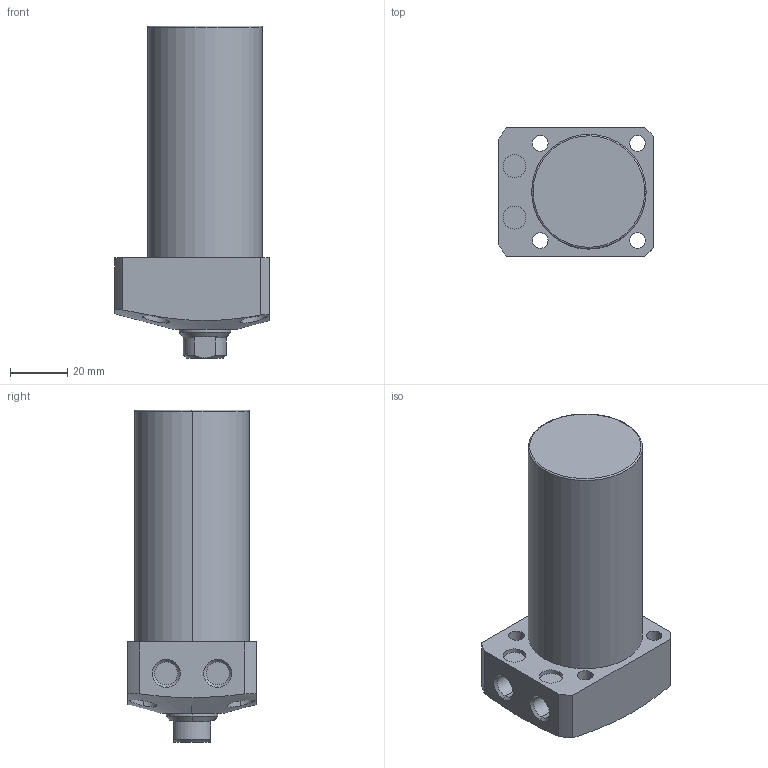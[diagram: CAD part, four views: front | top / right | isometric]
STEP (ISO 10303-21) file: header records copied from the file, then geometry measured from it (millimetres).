
FILE_DESCRIPTION (( 'STEP AP203' ), '1' );
FILE_NAME ('CLL-040CA-055.STEP', '2019-12-21T03:35:42', ( '' ), ( '' ), 'SwSTEP 2.0', 'SolidWorks 2015', '' );
FILE_SCHEMA (( 'CONFIG_CONTROL_DESIGN' ));
Length unit declared in the file: millimetre
Products named in the file (1): CLL-040CA-055
Bounding box: 54 x 45 x 116 mm (x, y, z)
Volume: 152225.9 mm3; surface area: 22281 mm2
Topology: 1 solids, 1 shells, 74 faces, 170 edges, 107 vertices
Faces by surface type: cylinder 35, plane 22, cone 15, torus 2
Entity records: 2505 total; most frequent: CARTESIAN_POINT 718, DIRECTION 374, ORIENTED_EDGE 336, EDGE_CURVE 168, AXIS2_PLACEMENT_3D 155, VERTEX_POINT 107, EDGE_LOOP 93, CIRCLE 80
